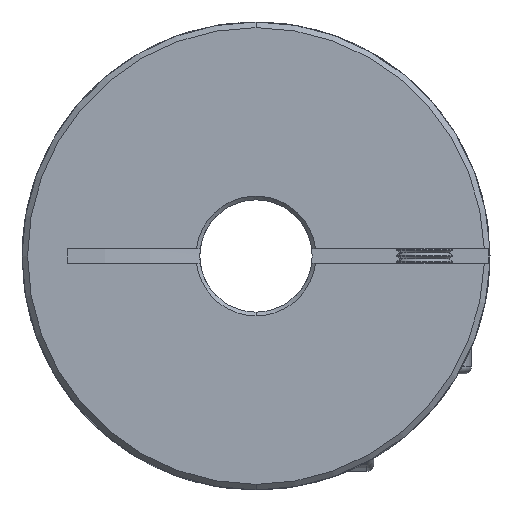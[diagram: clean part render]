
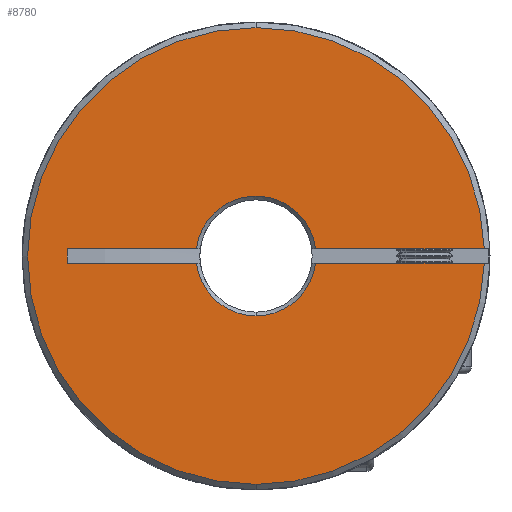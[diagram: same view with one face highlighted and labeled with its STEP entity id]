
A CAD part, front view. The second image highlights one B-rep face of the part: STEP entity #8780.
In plain terms, the highlighted planar face has unit normal (0, -1, 0).
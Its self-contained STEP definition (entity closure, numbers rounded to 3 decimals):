
#880 = VERTEX_POINT ( 'NONE', #5687 ) ;
#1006 = CARTESIAN_POINT ( 'NONE',  ( 24.388, 0., 0.75 ) ) ;
#1093 = LINE ( 'NONE', #14542, #11230 ) ;
#1162 = ORIENTED_EDGE ( 'NONE', *, *, #3131, .T. ) ;
#1264 = EDGE_CURVE ( 'NONE', #5963, #880, #6066, .T. ) ;
#1337 = DIRECTION ( 'NONE',  ( 0., 1., 0. ) ) ;
#1685 = ORIENTED_EDGE ( 'NONE', *, *, #6720, .F. ) ;
#2183 = ORIENTED_EDGE ( 'NONE', *, *, #15537, .T. ) ;
#2335 = DIRECTION ( 'NONE',  ( 0., 0., 1. ) ) ;
#2498 = CARTESIAN_POINT ( 'NONE',  ( -20.149, 0., 0.75 ) ) ;
#2516 = VECTOR ( 'NONE', #7490, 1000. ) ;
#2876 = VECTOR ( 'NONE', #9638, 1000. ) ;
#3111 = EDGE_LOOP ( 'NONE', ( #1685, #16978, #16246, #7857, #11336, #1162, #6776, #7538, #2183, #12564, #11119 ) ) ;
#3131 = EDGE_CURVE ( 'NONE', #11553, #16871, #1093, .T. ) ;
#3475 = CARTESIAN_POINT ( 'NONE',  ( 6.356, 0., -0.75 ) ) ;
#3586 = CARTESIAN_POINT ( 'NONE',  ( -50., 0., -0.75 ) ) ;
#4159 = CARTESIAN_POINT ( 'NONE',  ( -6.356, 0., 0.75 ) ) ;
#4308 = LINE ( 'NONE', #15405, #14203 ) ;
#4316 = VERTEX_POINT ( 'NONE', #7666 ) ;
#4900 = DIRECTION ( 'NONE',  ( 0., 0., 1. ) ) ;
#4915 = EDGE_CURVE ( 'NONE', #16871, #5849, #5495, .T. ) ;
#5106 = DIRECTION ( 'NONE',  ( 0., 1., 0. ) ) ;
#5156 = DIRECTION ( 'NONE',  ( 0., 1., 0. ) ) ;
#5234 = DIRECTION ( 'NONE',  ( 0., 0., 1. ) ) ;
#5303 = DIRECTION ( 'NONE',  ( 0., 0., 1. ) ) ;
#5495 = CIRCLE ( 'NONE', #11500, 6.4 ) ;
#5687 = CARTESIAN_POINT ( 'NONE',  ( 0., 0., -6.4 ) ) ;
#5818 = EDGE_CURVE ( 'NONE', #4316, #14634, #16195, .T. ) ;
#5849 = VERTEX_POINT ( 'NONE', #8679 ) ;
#5963 = VERTEX_POINT ( 'NONE', #3475 ) ;
#6066 = CIRCLE ( 'NONE', #14824, 6.4 ) ;
#6199 = CIRCLE ( 'NONE', #8473, 24.4 ) ;
#6240 = CARTESIAN_POINT ( 'NONE',  ( 0., 0., 0. ) ) ;
#6528 = CIRCLE ( 'NONE', #12147, 6.4 ) ;
#6538 = DIRECTION ( 'NONE',  ( 1., 0., 0. ) ) ;
#6692 = EDGE_CURVE ( 'NONE', #8687, #14415, #7771, .T. ) ;
#6720 = EDGE_CURVE ( 'NONE', #5963, #14415, #9654, .T. ) ;
#6776 = ORIENTED_EDGE ( 'NONE', *, *, #4915, .T. ) ;
#6824 = CIRCLE ( 'NONE', #14100, 24.4 ) ;
#7154 = CARTESIAN_POINT ( 'NONE',  ( 0., 0., 0. ) ) ;
#7267 = DIRECTION ( 'NONE',  ( 0., 1., 0. ) ) ;
#7490 = DIRECTION ( 'NONE',  ( 1., 0., 0. ) ) ;
#7517 = LINE ( 'NONE', #8290, #2876 ) ;
#7538 = ORIENTED_EDGE ( 'NONE', *, *, #14677, .T. ) ;
#7612 = CARTESIAN_POINT ( 'NONE',  ( 0., 0., 0. ) ) ;
#7666 = CARTESIAN_POINT ( 'NONE',  ( -20.149, 0., -0.75 ) ) ;
#7705 = DIRECTION ( 'NONE',  ( 0., 0., 1. ) ) ;
#7771 = CIRCLE ( 'NONE', #11292, 24.4 ) ;
#7843 = CARTESIAN_POINT ( 'NONE',  ( 0., 0., 0. ) ) ;
#7857 = ORIENTED_EDGE ( 'NONE', *, *, #5818, .F. ) ;
#7906 = DIRECTION ( 'NONE',  ( 0., -1., 0. ) ) ;
#8262 = AXIS2_PLACEMENT_3D ( 'NONE', #14575, #5106, #2335 ) ;
#8290 = CARTESIAN_POINT ( 'NONE',  ( -50., 0., 0.75 ) ) ;
#8473 = AXIS2_PLACEMENT_3D ( 'NONE', #7843, #7906, #5303 ) ;
#8679 = CARTESIAN_POINT ( 'NONE',  ( 6.356, 0., 0.75 ) ) ;
#8687 = VERTEX_POINT ( 'NONE', #10303 ) ;
#8780 = ADVANCED_FACE ( 'NONE', ( #14421 ), #12016, .F. ) ;
#8865 = DIRECTION ( 'NONE',  ( 0., 0., 1. ) ) ;
#9399 = CARTESIAN_POINT ( 'NONE',  ( -6.356, 0., -0.75 ) ) ;
#9638 = DIRECTION ( 'NONE',  ( 1., 0., 0. ) ) ;
#9654 = LINE ( 'NONE', #3586, #16382 ) ;
#9939 = VERTEX_POINT ( 'NONE', #16405 ) ;
#10303 = CARTESIAN_POINT ( 'NONE',  ( 0., 0., -24.4 ) ) ;
#11119 = ORIENTED_EDGE ( 'NONE', *, *, #6692, .T. ) ;
#11230 = VECTOR ( 'NONE', #6538, 1000. ) ;
#11292 = AXIS2_PLACEMENT_3D ( 'NONE', #6240, #14361, #8865 ) ;
#11336 = ORIENTED_EDGE ( 'NONE', *, *, #16487, .T. ) ;
#11500 = AXIS2_PLACEMENT_3D ( 'NONE', #13223, #5156, #7705 ) ;
#11553 = VERTEX_POINT ( 'NONE', #2498 ) ;
#11675 = DIRECTION ( 'NONE',  ( 0., -1., 0. ) ) ;
#11736 = EDGE_CURVE ( 'NONE', #880, #14634, #6528, .T. ) ;
#12016 = PLANE ( 'NONE',  #8262 ) ;
#12147 = AXIS2_PLACEMENT_3D ( 'NONE', #7154, #7267, #12521 ) ;
#12521 = DIRECTION ( 'NONE',  ( 0., 0., 1. ) ) ;
#12564 = ORIENTED_EDGE ( 'NONE', *, *, #16057, .T. ) ;
#12736 = CARTESIAN_POINT ( 'NONE',  ( -50., 0., -0.75 ) ) ;
#13223 = CARTESIAN_POINT ( 'NONE',  ( 0., 0., 0. ) ) ;
#14100 = AXIS2_PLACEMENT_3D ( 'NONE', #7612, #11675, #4900 ) ;
#14203 = VECTOR ( 'NONE', #16776, 1000. ) ;
#14361 = DIRECTION ( 'NONE',  ( 0., -1., 0. ) ) ;
#14415 = VERTEX_POINT ( 'NONE', #15533 ) ;
#14421 = FACE_OUTER_BOUND ( 'NONE', #3111, .T. ) ;
#14542 = CARTESIAN_POINT ( 'NONE',  ( -50., 0., 0.75 ) ) ;
#14575 = CARTESIAN_POINT ( 'NONE',  ( -50., 0., 32.858 ) ) ;
#14634 = VERTEX_POINT ( 'NONE', #9399 ) ;
#14677 = EDGE_CURVE ( 'NONE', #5849, #15987, #7517, .T. ) ;
#14824 = AXIS2_PLACEMENT_3D ( 'NONE', #15928, #1337, #5234 ) ;
#15405 = CARTESIAN_POINT ( 'NONE',  ( -20.149, 0., -0.75 ) ) ;
#15494 = DIRECTION ( 'NONE',  ( 1., 0., 0. ) ) ;
#15533 = CARTESIAN_POINT ( 'NONE',  ( 24.388, 0., -0.75 ) ) ;
#15537 = EDGE_CURVE ( 'NONE', #15987, #9939, #6199, .T. ) ;
#15928 = CARTESIAN_POINT ( 'NONE',  ( 0., 0., 0. ) ) ;
#15987 = VERTEX_POINT ( 'NONE', #1006 ) ;
#16057 = EDGE_CURVE ( 'NONE', #9939, #8687, #6824, .T. ) ;
#16195 = LINE ( 'NONE', #12736, #2516 ) ;
#16246 = ORIENTED_EDGE ( 'NONE', *, *, #11736, .T. ) ;
#16382 = VECTOR ( 'NONE', #15494, 1000. ) ;
#16405 = CARTESIAN_POINT ( 'NONE',  ( 0., 0., 24.4 ) ) ;
#16487 = EDGE_CURVE ( 'NONE', #4316, #11553, #4308, .T. ) ;
#16776 = DIRECTION ( 'NONE',  ( 0., 0., 1. ) ) ;
#16871 = VERTEX_POINT ( 'NONE', #4159 ) ;
#16978 = ORIENTED_EDGE ( 'NONE', *, *, #1264, .T. ) ;
